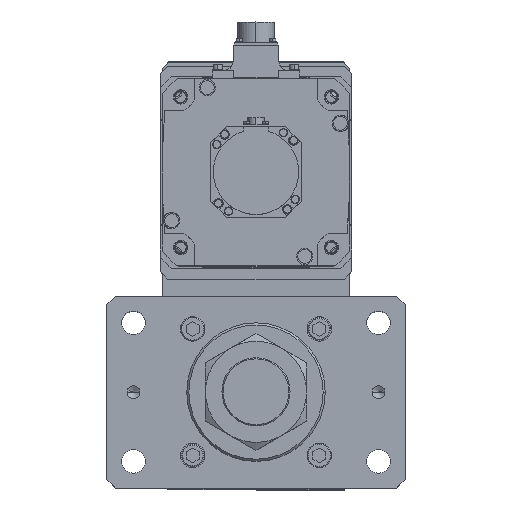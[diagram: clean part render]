
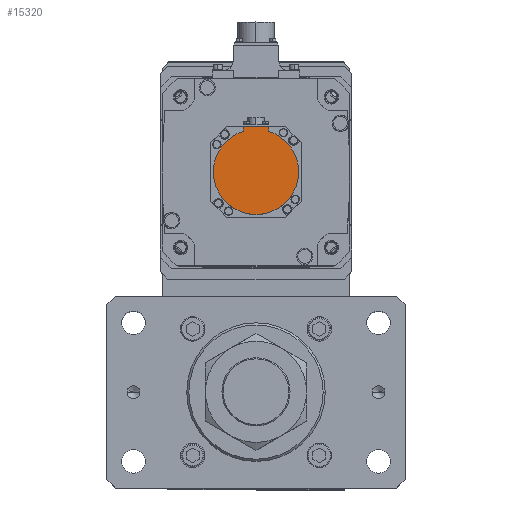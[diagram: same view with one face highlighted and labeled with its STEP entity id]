
A CAD part, top view. The second image highlights one B-rep face of the part: STEP entity #15320.
In plain terms, the highlighted planar face has unit normal (0, 0, 1) as drawn and (0, 0, -1) by its records, which use the part's own axes.
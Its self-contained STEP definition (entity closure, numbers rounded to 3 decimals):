
#844 = LINE ( 'NONE', #19869, #4017 ) ;
#1293 = VECTOR ( 'NONE', #37466, 1000. ) ;
#2554 = DIRECTION ( 'NONE',  ( 1., 0., 0. ) ) ;
#4017 = VECTOR ( 'NONE', #28948, 1000. ) ;
#5400 = AXIS2_PLACEMENT_3D ( 'NONE', #30233, #14216, #5837 ) ;
#5619 = ORIENTED_EDGE ( 'NONE', *, *, #16226, .T. ) ;
#5837 = DIRECTION ( 'NONE',  ( 1., 0., 0. ) ) ;
#6452 = ORIENTED_EDGE ( 'NONE', *, *, #15797, .F. ) ;
#7000 = VERTEX_POINT ( 'NONE', #38415 ) ;
#8996 = ORIENTED_EDGE ( 'NONE', *, *, #45417, .F. ) ;
#13953 = ORIENTED_EDGE ( 'NONE', *, *, #36540, .F. ) ;
#14216 = DIRECTION ( 'NONE',  ( 0., 0., 1. ) ) ;
#15320 = ADVANCED_FACE ( 'NONE', ( #48597 ), #19867, .F. ) ;
#15722 = DIRECTION ( 'NONE',  ( 1., 0., 0. ) ) ;
#15756 = CIRCLE ( 'NONE', #5400, 40. ) ;
#15797 = EDGE_CURVE ( 'NONE', #21571, #50231, #41610, .T. ) ;
#16226 = EDGE_CURVE ( 'NONE', #7000, #52123, #32677, .T. ) ;
#18169 = CARTESIAN_POINT ( 'NONE',  ( -12., -40.329, -178.5 ) ) ;
#18176 = AXIS2_PLACEMENT_3D ( 'NONE', #52230, #35756, #15722 ) ;
#19867 = PLANE ( 'NONE',  #33988 ) ;
#19869 = CARTESIAN_POINT ( 'NONE',  ( 12., -1.249, -178.5 ) ) ;
#21571 = VERTEX_POINT ( 'NONE', #44289 ) ;
#22873 = CARTESIAN_POINT ( 'NONE',  ( 0., 0., -178.5 ) ) ;
#26954 = DIRECTION ( 'NONE',  ( 0., 0., 1. ) ) ;
#27544 = CARTESIAN_POINT ( 'NONE',  ( 0., -1.249, -178.5 ) ) ;
#28658 = ORIENTED_EDGE ( 'NONE', *, *, #42753, .T. ) ;
#28948 = DIRECTION ( 'NONE',  ( 0., 1., 0. ) ) ;
#29536 = CARTESIAN_POINT ( 'NONE',  ( 0., -42.5, -178.5 ) ) ;
#30233 = CARTESIAN_POINT ( 'NONE',  ( 0., 0., -178.5 ) ) ;
#32165 = EDGE_CURVE ( 'NONE', #50231, #52123, #15756, .T. ) ;
#32560 = CARTESIAN_POINT ( 'NONE',  ( -12., -38.158, -178.5 ) ) ;
#32677 = LINE ( 'NONE', #18169, #42155 ) ;
#33988 = AXIS2_PLACEMENT_3D ( 'NONE', #27544, #43975, #39557 ) ;
#35756 = DIRECTION ( 'NONE',  ( 0., 0., 1. ) ) ;
#36540 = EDGE_CURVE ( 'NONE', #39995, #21571, #37311, .T. ) ;
#36919 = CARTESIAN_POINT ( 'NONE',  ( 12., -38.158, -178.5 ) ) ;
#37096 = AXIS2_PLACEMENT_3D ( 'NONE', #22873, #26954, #2554 ) ;
#37261 = CARTESIAN_POINT ( 'NONE',  ( -40., 0., -178.5 ) ) ;
#37311 = CIRCLE ( 'NONE', #18176, 40. ) ;
#37466 = DIRECTION ( 'NONE',  ( -1., 0., 0. ) ) ;
#38415 = CARTESIAN_POINT ( 'NONE',  ( -12., -42.5, -178.5 ) ) ;
#38545 = EDGE_LOOP ( 'NONE', ( #5619, #43139, #6452, #13953, #8996, #28658 ) ) ;
#39557 = DIRECTION ( 'NONE',  ( 1., 0., 0. ) ) ;
#39995 = VERTEX_POINT ( 'NONE', #36919 ) ;
#41149 = CARTESIAN_POINT ( 'NONE',  ( 12., -42.5, -178.5 ) ) ;
#41610 = CIRCLE ( 'NONE', #37096, 40. ) ;
#42155 = VECTOR ( 'NONE', #46552, 1000. ) ;
#42753 = EDGE_CURVE ( 'NONE', #52483, #7000, #44521, .T. ) ;
#43139 = ORIENTED_EDGE ( 'NONE', *, *, #32165, .F. ) ;
#43975 = DIRECTION ( 'NONE',  ( 0., 0., 1. ) ) ;
#44289 = CARTESIAN_POINT ( 'NONE',  ( 40., 0., -178.5 ) ) ;
#44521 = LINE ( 'NONE', #29536, #1293 ) ;
#45417 = EDGE_CURVE ( 'NONE', #52483, #39995, #844, .T. ) ;
#46552 = DIRECTION ( 'NONE',  ( 0., 1., 0. ) ) ;
#48597 = FACE_OUTER_BOUND ( 'NONE', #38545, .T. ) ;
#50231 = VERTEX_POINT ( 'NONE', #37261 ) ;
#52123 = VERTEX_POINT ( 'NONE', #32560 ) ;
#52230 = CARTESIAN_POINT ( 'NONE',  ( 0., 0., -178.5 ) ) ;
#52483 = VERTEX_POINT ( 'NONE', #41149 ) ;
